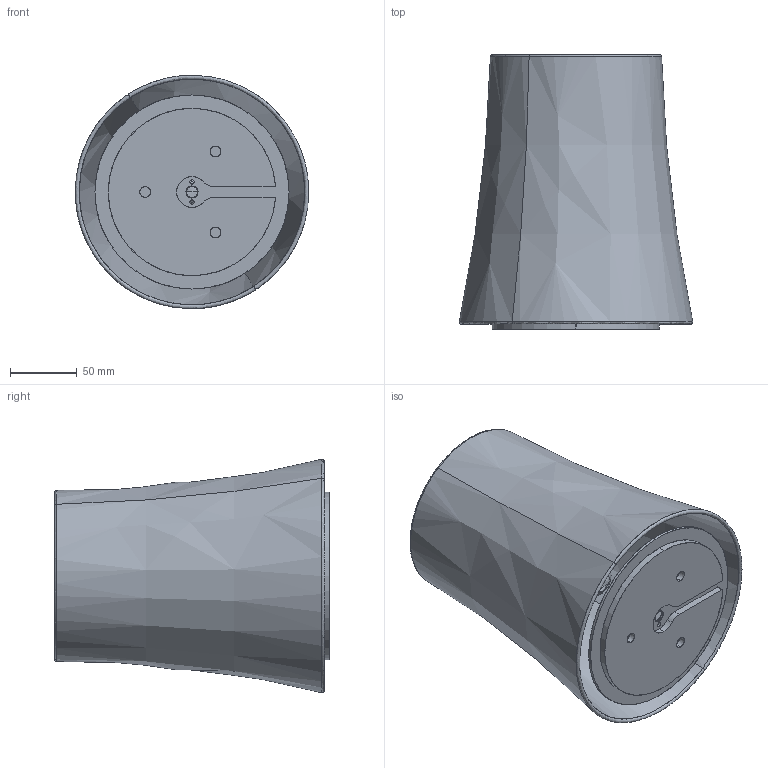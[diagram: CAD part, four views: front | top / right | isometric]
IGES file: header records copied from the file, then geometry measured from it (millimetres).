
Start section: SolidWorks IGES file using analytic representation for surfaces
Global section: file name: F:\foscarini\RS\0_ 2D-3D\BIRDIE\3d (stp,igs,3ds,dxf)\IGS\BIRDIE 0 PICCOLA  TAVOLO.IGS; native system: SolidWorks 2020; preprocessor: SolidWorks 2020; author: m.tonasso; date: 200715.095128; units: millimetre
Bounding box: 174.4 x 205.2 x 174.35 mm (x, y, z)
Surface area: 275477.7 mm2 (no closed solid volume)
Topology: 0 solids, 0 shells, 108 faces, 1408 edges, 1405 vertices
Faces by surface type: revolution 58, bspline 50
